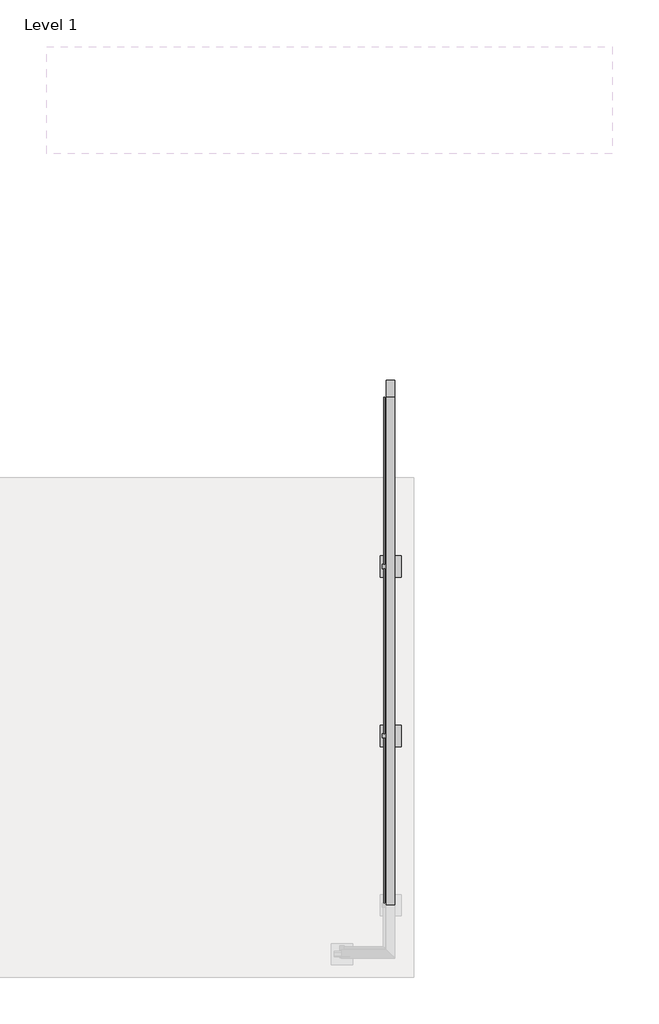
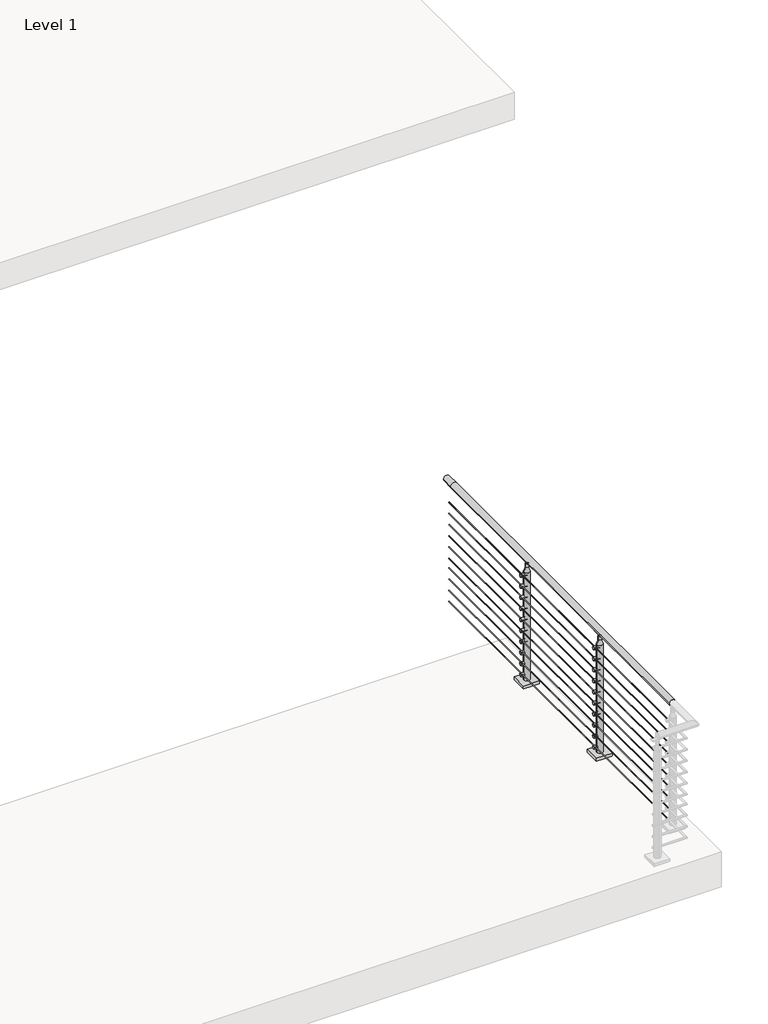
# One storey, part 5 of 21: 1 railing.
"""IFC4 building model written with IfcOpenShell, lengths in millimetres."""

import ifcopenshell
import ifcopenshell.guid

model = None  # the IFC model being written
_history = None  # IfcOwnerHistory: only IFC2X3 demands one
_inside = {}  # id of a spatial element -> (the spatial element, [elements in it])
_under = {}  # id of a project, library or spatial element -> (it, [spatial elements below it])
_declared = {}  # id of a project -> (the project, [libraries it declares])
_typed = {}  # id of a type object -> (the type object, [elements of that type])
_made_of = {}  # id of a material, layer set ... -> (it, [elements and type objects made of it])


def new_model(schema):
    """Start an empty IFC model of exactly this schema.

    Asked for "IFC4X3", IfcOpenShell would pick the latest addendum, in which some entities
    have other attributes; the version numbers below select the first issue.
    IFC2X3 requires an IfcOwnerHistory on every rooted entity: one is made here for all.
    """
    global model, _history
    if schema == "IFC4X3":
        model = ifcopenshell.file(schema_version=(4, 3, 0, 0))
    else:
        model = ifcopenshell.file(schema=schema)
    _inside.clear()
    _under.clear()
    _declared.clear()
    _typed.clear()
    _made_of.clear()
    _history = None
    if model.schema == "IFC2X3":
        org = make("IfcOrganization", Name="unknown")
        user = make(
            "IfcPersonAndOrganization",
            ThePerson=make("IfcPerson", FamilyName="unknown"),
            TheOrganization=org,
        )
        app = make(
            "IfcApplication",
            ApplicationDeveloper=org,
            Version="unknown",
            ApplicationFullName="unknown",
            ApplicationIdentifier="unknown",
        )
        _history = make(
            "IfcOwnerHistory",
            OwningUser=user,
            OwningApplication=app,
            ChangeAction="ADDED",
            CreationDate=0,
        )
    return model


def make(cls, **values):
    """One entity of the class cls with the attributes given. An attribute that is None is left unset."""
    return model.create_entity(
        cls, **{name: value for name, value in values.items() if value is not None}
    )


def rooted(cls, **values):
    """An entity with a GlobalId (a new one), such as an element, a storey or a relation."""
    return make(cls, GlobalId=ifcopenshell.guid.new(), OwnerHistory=_history, **values)


def si_unit(unit_type, name, prefix=None):
    """IfcSIUnit, for example si_unit("LENGTHUNIT", "METRE", prefix="MILLI")."""
    return make("IfcSIUnit", UnitType=unit_type, Prefix=prefix, Name=name)


def assignment(units):
    """IfcUnitAssignment: the units of a project."""
    return None if units is None else make("IfcUnitAssignment", Units=units)


def point(xyz):
    """IfcCartesianPoint."""
    return None if xyz is None else make("IfcCartesianPoint", Coordinates=xyz)


def direction(xyz):
    """IfcDirection."""
    return None if xyz is None else make("IfcDirection", DirectionRatios=xyz)


def frame(location, z_axis=None, x_axis=None):
    """IfcAxis2Placement3D, a coordinate frame: its origin and axes. An axis left out is left unset."""
    return make(
        "IfcAxis2Placement3D",
        Location=point(location),
        Axis=direction(z_axis),
        RefDirection=direction(x_axis),
    )


def frame_2d(location, x_axis=None):
    """IfcAxis2Placement2D, a coordinate frame in the plane: its origin and x axis."""
    return make(
        "IfcAxis2Placement2D", Location=point(location), RefDirection=direction(x_axis)
    )


def origin():
    """The frame at (0, 0, 0) with its axes left unset."""
    return frame((0.0, 0.0, 0.0))


def origin_with_axes():
    """The frame at (0, 0, 0) with the z axis (0, 0, 1) and the x axis (1, 0, 0) written out."""
    return frame((0.0, 0.0, 0.0), z_axis=(0.0, 0.0, 1.0), x_axis=(1.0, 0.0, 0.0))


def place(relative_to, where):
    """IfcLocalPlacement: puts the frame where relative to a parent placement (None: the world)."""
    return make(
        "IfcLocalPlacement", PlacementRelTo=relative_to, RelativePlacement=where
    )


def context(
    kind, dimensions, precision=None, world=None, true_north=None, identifier=None
):
    """IfcGeometricRepresentationContext, for example the 3D "Model" context."""
    return make(
        "IfcGeometricRepresentationContext",
        ContextIdentifier=identifier,
        ContextType=kind,
        CoordinateSpaceDimension=dimensions,
        Precision=precision,
        WorldCoordinateSystem=world,
        TrueNorth=true_north,
    )


def project(units=None, contexts=None):
    """IfcProject with its units and contexts."""
    return rooted(
        "IfcProject",
        Name="project",
        RepresentationContexts=contexts,
        UnitsInContext=assignment(units),
    )


def spatial(cls, under=None, at=None, **own):
    """A site, building, storey or space (cls), placed at a placement, below another one or the project."""
    s = rooted(cls, ObjectPlacement=at, **own)
    if under is not None:
        _under.setdefault(under.id(), (under, []))[1].append(s)
    return s


def polyline(points):
    """IfcPolyline through the points."""
    return make("IfcPolyline", Points=[point(p) for p in points])


def circle_curve(where, radius):
    """IfcCircle in the frame where."""
    return make("IfcCircle", Position=where, Radius=radius)


def ellipse_curve(where, semi_axis1, semi_axis2):
    """IfcEllipse in the frame where."""
    return make(
        "IfcEllipse", Position=where, SemiAxis1=semi_axis1, SemiAxis2=semi_axis2
    )


def trimmed(basis, trim1, trim2, sense, master):
    """IfcTrimmedCurve: the piece of a basis curve between two trims."""
    return make(
        "IfcTrimmedCurve",
        BasisCurve=basis,
        Trim1=trim1,
        Trim2=trim2,
        SenseAgreement=sense,
        MasterRepresentation=master,
    )


def segment(curve, same_sense, transition):
    """IfcCompositeCurveSegment."""
    return make(
        "IfcCompositeCurveSegment",
        Transition=transition,
        SameSense=same_sense,
        ParentCurve=curve,
    )


def composite_curve(segments, self_intersect=None):
    """IfcCompositeCurve: segments joined end to end."""
    return make("IfcCompositeCurve", Segments=segments, SelfIntersect=self_intersect)


def outline(outer, holes=None, kind="AREA"):
    """IfcArbitraryClosedProfileDef: a profile drawn as a closed curve; with holes, ...WithVoids."""
    if holes is None:
        return make("IfcArbitraryClosedProfileDef", ProfileType=kind, OuterCurve=outer)
    return make(
        "IfcArbitraryProfileDefWithVoids",
        ProfileType=kind,
        OuterCurve=outer,
        InnerCurves=holes,
    )


def extrude(swept, where, along, depth):
    """IfcExtrudedAreaSolid: the profile swept, set in the frame where, extruded along a direction by depth."""
    return make(
        "IfcExtrudedAreaSolid",
        SweptArea=swept,
        Position=where,
        ExtrudedDirection=direction(along),
        Depth=depth,
    )


def shape(context_of_items, identifier, shape_type, items):
    """IfcShapeRepresentation: the items that make up one representation, for example the "Body"."""
    return make(
        "IfcShapeRepresentation",
        ContextOfItems=context_of_items,
        RepresentationIdentifier=identifier,
        RepresentationType=shape_type,
        Items=items,
    )


def made_of(thing, what):
    """Note that an element or type object is made of a material, layer set ...; save() writes the relation."""
    if what is not None:
        _made_of.setdefault(what.id(), (what, []))[1].append(thing)
    return thing


def element(
    cls,
    number,
    at=None,
    inside=None,
    cuts=None,
    type_object=None,
    material=None,
    context=None,
    identifier="Body",
    shape_type=None,
    held_by="IfcProductDefinitionShape",
    body=None,
    shapes=None,
    **own,
):
    """One element of the class cls, such as IfcWall. Its Tag is "e" and its number.

    at: its placement. inside: the storey or other place that contains it. cuts: it is an
    opening in that element (IfcRelVoidsElement). A single representation is given by context,
    identifier, shape_type and body (its items); several are given by shapes. held_by: the class
    of the entity that holds the representations. save() writes the other relations.
    """
    e = rooted(cls, Tag="e%d" % number, ObjectPlacement=at, **own)
    if body is not None:
        shapes = [shape(context, identifier, shape_type, body)]
    if shapes is not None:
        e.Representation = make(held_by, Representations=shapes)
    if inside is not None:
        _inside.setdefault(inside.id(), (inside, []))[1].append(e)
    if cuts is not None:
        rooted(
            "IfcRelVoidsElement", RelatingBuildingElement=cuts, RelatedOpeningElement=e
        )
    if type_object is not None:
        _typed.setdefault(type_object.id(), (type_object, []))[1].append(e)
    return made_of(e, material)


def aggregate(whole, parts):
    """IfcRelAggregates: a whole, such as a stair, and the parts it consists of."""
    return rooted("IfcRelAggregates", RelatingObject=whole, RelatedObjects=parts)


def save(model, path):
    """Write the relations noted so far, then the file.

    IfcRelAggregates (storeys below a building ...), IfcRelContainedInSpatialStructure (elements
    in a storey), IfcRelDefinesByType, IfcRelAssociatesMaterial and IfcRelDeclares: one each for
    every whole, place, type object, material and project.
    """
    for whole, parts in _under.values():
        aggregate(whole, parts)
    for where, things in _inside.values():
        rooted(
            "IfcRelContainedInSpatialStructure",
            RelatedElements=things,
            RelatingStructure=where,
        )
    for kind, things in _typed.values():
        rooted("IfcRelDefinesByType", RelatedObjects=things, RelatingType=kind)
    for what, things in _made_of.values():
        rooted("IfcRelAssociatesMaterial", RelatedObjects=things, RelatingMaterial=what)
    for by, libraries in _declared.values():
        rooted("IfcRelDeclares", RelatingContext=by, RelatedDefinitions=libraries)
    model.write(path)


def plane_surface(at):
    """IfcPlane: the flat surface through the origin of the frame at, square to its z axis."""
    return make("IfcPlane", Position=at)


def cylinder_surface(at, radius):
    """IfcCylindricalSurface: all points at the distance radius from the z axis of the frame at."""
    return make("IfcCylindricalSurface", Position=at, Radius=radius)


def revolved_surface(curve, axis_point, axis_direction):
    """IfcSurfaceOfRevolution: the curve turned about the line through axis_point along axis_direction."""
    return make(
        "IfcSurfaceOfRevolution",
        SweptCurve=make("IfcArbitraryOpenProfileDef", ProfileType="CURVE", Curve=curve),
        AxisPosition=make("IfcAxis1Placement", Location=point(axis_point), Axis=direction(axis_direction)),
    )


def advanced_brep(points, edges, surfaces, faces):
    """IfcAdvancedBrep: a solid bounded by faces that lie on surfaces and meet in shared edges.

    An edge is (start, end): straight between two places in points (the first is 0);
    or (start, end, curve); or (start, end, curve, False) where it runs against its curve.
    A face is (place in surfaces, loops), or (place, loops, False) where it looks against
    its surface's normal. A loop lists edges by number (the first is 1), with a minus sign
    where the edge is run from its end to its start. The first loop is the outer one.
    """
    corners = [point(p) for p in points]
    vertices = [make("IfcVertexPoint", VertexGeometry=c) for c in corners]
    made = []
    for start, end, *more in edges:
        made.append(
            make(
                "IfcEdgeCurve",
                EdgeStart=vertices[start],
                EdgeEnd=vertices[end],
                EdgeGeometry=more[0] if more else make("IfcPolyline", Points=[corners[start], corners[end]]),
                SameSense=more[1] if len(more) > 1 else True,
            )
        )
    hull = []
    for where, loops, *sense in faces:
        bounds = []
        for j, loop in enumerate(loops):
            ring = [make("IfcOrientedEdge", EdgeElement=made[abs(k) - 1], Orientation=k > 0) for k in loop]
            bounds.append(
                make(
                    "IfcFaceOuterBound" if j == 0 else "IfcFaceBound",
                    Bound=make("IfcEdgeLoop", EdgeList=ring),
                    Orientation=True,
                )
            )
        hull.append(make("IfcAdvancedFace", Bounds=bounds, FaceSurface=surfaces[where], SameSense=sense[0] if sense else True))
    return make("IfcAdvancedBrep", Outer=make("IfcClosedShell", CfsFaces=hull))


model = new_model("IFC4")

# Units and contexts
model_context = context("Model", 3, world=origin())
ifc_project = project(units=[si_unit("LENGTHUNIT", "METRE", prefix="MILLI")], contexts=[model_context])

# Site, building, storey
site = spatial("IfcSite", under=ifc_project)
building = spatial("IfcBuilding", under=site)
storey = spatial("IfcBuildingStorey", under=building, Name="Level 1", Elevation=0.0)

# Railing
placement = place(None, origin())
element("IfcRailing", 1, ObjectType="VIVA-CIRCA-Multiline-Cable-Floor Mount-Straight", at=placement, inside=storey, context=model_context, shape_type="SolidModel", body=[
    advanced_brep(
    [(19629.2855247, -73352.7943064, 1054.1), (19578.4855247, -73352.7943064, 1054.1), (19629.2855247, -70304.7943064, 1054.1), (19578.4855247, -70304.7943064, 1054.1), (19629.2855247, -70203.1943064, 1054.1), (19578.4855247, -70203.1943064, 1054.1)],
    [
        (0, 1, circle_curve(frame((19603.8855247, -73352.7943064, 1054.1), z_axis=(0.0, -1.0, 0.0), x_axis=(-1.0, 0.0, 0.0)), 25.4)),
        (1, 0, circle_curve(frame((19603.8855247, -73352.7943064, 1054.1), z_axis=(0.0, -1.0, 0.0), x_axis=(-1.0, 0.0, 0.0)), 25.4)),
        (0, 2),
        (2, 3, circle_curve(frame((19603.8855247, -70304.7943064, 1054.1), z_axis=(0.0, -1.0, 0.0), x_axis=(-1.0, 0.0, 0.0)), 25.4)),
        (3, 1),
        (3, 2, circle_curve(frame((19603.8855247, -70304.7943064, 1054.1), z_axis=(0.0, -1.0, 0.0), x_axis=(-1.0, 0.0, 0.0)), 25.4)),
        (4, 5, circle_curve(frame((19603.8855247, -70203.1943064, 1054.1), z_axis=(0.0, 1.0, 0.0), x_axis=(-1.0, 0.0, 0.0)), 25.4)),
        (5, 4, circle_curve(frame((19603.8855247, -70203.1943064, 1054.1), z_axis=(0.0, 1.0, 0.0), x_axis=(-1.0, 0.0, 0.0)), 25.4)),
        (2, 4),
        (5, 3),
    ],
    [
        plane_surface(frame((19603.8855247, -73352.7943064, 1079.5), z_axis=(0.0, -1.0, 0.0), x_axis=(0.0, 0.0, 1.0))),
        cylinder_surface(frame((19603.8855247, -73352.7943064, 1054.1), z_axis=(0.0, -1.0, 0.0), x_axis=(-1.0, 0.0, 0.0)), 25.4),
        plane_surface(frame((19603.8855247, -70203.1943064, 1079.5), z_axis=(0.0, 1.0, 0.0), x_axis=(0.0, 0.0, 1.0))),
        cylinder_surface(frame((19603.8855247, -70304.7943064, 1054.1), z_axis=(0.0, -1.0, 0.0), x_axis=(-1.0, 0.0, 0.0)), 25.4),
    ],
    [
        (0, [[1, 2]]),
        (1, [[-1, 3, 4, 5]]),
        (1, [[-2, -5, 6, -3]]),
        (2, [[7, 8]]),
        (3, [[-4, 9, -8, 10]]),
        (3, [[-6, -10, -7, -9]]),
    ],
),
    extrude(outline(composite_curve([segment(trimmed(circle_curve(frame_2d((924.7124, 19565.7855247)), 2.3876), [point((924.7124, 19563.3979247))], [point((924.7124, 19568.1731247))], False, "CARTESIAN"), True, "CONTINUOUS"), segment(trimmed(circle_curve(frame_2d((924.7124, 19565.7855247)), 2.3876), [point((924.7124, 19568.1731247))], [point((924.7124, 19563.3979247))], False, "CARTESIAN"), True, "CONTINUOUS")], self_intersect=False)), frame((0.0, -73352.7943064, 0.0), z_axis=(0.0, 1.0, 0.0), x_axis=(0.0, 0.0, 1.0)), (0.0, 0.0, 1.0), 3048.0),
    extrude(outline(composite_curve([segment(trimmed(circle_curve(frame_2d((829.4624, 19565.7855247)), 2.3876), [point((829.4624, 19563.3979247))], [point((829.4624, 19568.1731247))], False, "CARTESIAN"), True, "CONTINUOUS"), segment(trimmed(circle_curve(frame_2d((829.4624, 19565.7855247)), 2.3876), [point((829.4624, 19568.1731247))], [point((829.4624, 19563.3979247))], False, "CARTESIAN"), True, "CONTINUOUS")], self_intersect=False)), frame((0.0, -73352.7943064, 0.0), z_axis=(0.0, 1.0, 0.0), x_axis=(0.0, 0.0, 1.0)), (0.0, 0.0, 1.0), 3048.0),
    extrude(outline(composite_curve([segment(trimmed(circle_curve(frame_2d((734.2124, 19565.7855247)), 2.3876), [point((734.2124, 19563.3979247))], [point((734.2124, 19568.1731247))], False, "CARTESIAN"), True, "CONTINUOUS"), segment(trimmed(circle_curve(frame_2d((734.2124, 19565.7855247)), 2.3876), [point((734.2124, 19568.1731247))], [point((734.2124, 19563.3979247))], False, "CARTESIAN"), True, "CONTINUOUS")], self_intersect=False)), frame((0.0, -73352.7943064, 0.0), z_axis=(0.0, 1.0, 0.0), x_axis=(0.0, 0.0, 1.0)), (0.0, 0.0, 1.0), 3048.0),
    extrude(outline(composite_curve([segment(trimmed(circle_curve(frame_2d((638.9624, 19565.7855247)), 2.3876), [point((638.9624, 19563.3979247))], [point((638.9624, 19568.1731247))], False, "CARTESIAN"), True, "CONTINUOUS"), segment(trimmed(circle_curve(frame_2d((638.9624, 19565.7855247)), 2.3876), [point((638.9624, 19568.1731247))], [point((638.9624, 19563.3979247))], False, "CARTESIAN"), True, "CONTINUOUS")], self_intersect=False)), frame((0.0, -73352.7943064, 0.0), z_axis=(0.0, 1.0, 0.0), x_axis=(0.0, 0.0, 1.0)), (0.0, 0.0, 1.0), 3048.0),
    extrude(outline(composite_curve([segment(trimmed(circle_curve(frame_2d((543.7124, 19565.7855247)), 2.3876), [point((543.7124, 19563.3979247))], [point((543.7124, 19568.1731247))], False, "CARTESIAN"), True, "CONTINUOUS"), segment(trimmed(circle_curve(frame_2d((543.7124, 19565.7855247)), 2.3876), [point((543.7124, 19568.1731247))], [point((543.7124, 19563.3979247))], False, "CARTESIAN"), True, "CONTINUOUS")], self_intersect=False)), frame((0.0, -73352.7943064, 0.0), z_axis=(0.0, 1.0, 0.0), x_axis=(0.0, 0.0, 1.0)), (0.0, 0.0, 1.0), 3048.0),
    extrude(outline(composite_curve([segment(trimmed(circle_curve(frame_2d((448.4624, 19565.7855247)), 2.3876), [point((448.4624, 19563.3979247))], [point((448.4624, 19568.1731247))], False, "CARTESIAN"), True, "CONTINUOUS"), segment(trimmed(circle_curve(frame_2d((448.4624, 19565.7855247)), 2.3876), [point((448.4624, 19568.1731247))], [point((448.4624, 19563.3979247))], False, "CARTESIAN"), True, "CONTINUOUS")], self_intersect=False)), frame((0.0, -73352.7943064, 0.0), z_axis=(0.0, 1.0, 0.0), x_axis=(0.0, 0.0, 1.0)), (0.0, 0.0, 1.0), 3048.0),
    extrude(outline(composite_curve([segment(trimmed(circle_curve(frame_2d((365.9124, 19565.7855247)), 2.3876), [point((365.9124, 19563.3979247))], [point((365.9124, 19568.1731247))], False, "CARTESIAN"), True, "CONTINUOUS"), segment(trimmed(circle_curve(frame_2d((365.9124, 19565.7855247)), 2.3876), [point((365.9124, 19568.1731247))], [point((365.9124, 19563.3979247))], False, "CARTESIAN"), True, "CONTINUOUS")], self_intersect=False)), frame((0.0, -73352.7943064, 0.0), z_axis=(0.0, 1.0, 0.0), x_axis=(0.0, 0.0, 1.0)), (0.0, 0.0, 1.0), 3048.0),
    extrude(outline(composite_curve([segment(trimmed(circle_curve(frame_2d((270.6624, 19565.7855247)), 2.3876), [point((270.6624, 19563.3979247))], [point((270.6624, 19568.1731247))], False, "CARTESIAN"), True, "CONTINUOUS"), segment(trimmed(circle_curve(frame_2d((270.6624, 19565.7855247)), 2.3876), [point((270.6624, 19568.1731247))], [point((270.6624, 19563.3979247))], False, "CARTESIAN"), True, "CONTINUOUS")], self_intersect=False)), frame((0.0, -73352.7943064, 0.0), z_axis=(0.0, 1.0, 0.0), x_axis=(0.0, 0.0, 1.0)), (0.0, 0.0, 1.0), 3048.0),
    extrude(outline(composite_curve([segment(trimmed(circle_curve(frame_2d((175.4124, 19565.7855247)), 2.3876), [point((175.4124, 19563.3979247))], [point((175.4124, 19568.1731247))], False, "CARTESIAN"), True, "CONTINUOUS"), segment(trimmed(circle_curve(frame_2d((175.4124, 19565.7855247)), 2.3876), [point((175.4124, 19568.1731247))], [point((175.4124, 19563.3979247))], False, "CARTESIAN"), True, "CONTINUOUS")], self_intersect=False)), frame((0.0, -73352.7943064, 0.0), z_axis=(0.0, 1.0, 0.0), x_axis=(0.0, 0.0, 1.0)), (0.0, 0.0, 1.0), 3048.0),
    extrude(outline(composite_curve([segment(trimmed(circle_curve(frame_2d((80.1624, 19565.7855247)), 2.3876), [point((80.1624, 19563.3979247))], [point((80.1624, 19568.1731247))], False, "CARTESIAN"), True, "CONTINUOUS"), segment(trimmed(circle_curve(frame_2d((80.1624, 19565.7855247)), 2.3876), [point((80.1624, 19568.1731247))], [point((80.1624, 19563.3979247))], False, "CARTESIAN"), True, "CONTINUOUS")], self_intersect=False)), frame((0.0, -73352.7943064, 0.0), z_axis=(0.0, 1.0, 0.0), x_axis=(0.0, 0.0, 1.0)), (0.0, 0.0, 1.0), 3048.0),
    extrude(outline(composite_curve([segment(trimmed(circle_curve(frame_2d((-71320.0005564, 76.2)), 12.666458), [point((-71307.3340985, 76.2))], [point((-71332.6670144, 76.2))], False, "CARTESIAN"), True, "CONTINUOUS"), segment(trimmed(circle_curve(frame_2d((-71320.0005564, 76.2)), 12.666458), [point((-71332.6670144, 76.2))], [point((-71307.3340985, 76.2))], False, "CARTESIAN"), True, "CONTINUOUS")], self_intersect=False)), frame((19553.0855247, 0.0, 0.0), z_axis=(1.0, 0.0, 0.0), x_axis=(0.0, 1.0, 0.0)), (0.0, 0.0, 1.0), 50.8),
    extrude(outline(composite_curve([segment(trimmed(circle_curve(frame_2d((-71320.0005564, 170.0388889)), 12.666458), [point((-71307.3340985, 170.0388889))], [point((-71332.6670144, 170.0388889))], False, "CARTESIAN"), True, "CONTINUOUS"), segment(trimmed(circle_curve(frame_2d((-71320.0005564, 170.0388889)), 12.666458), [point((-71332.6670144, 170.0388889))], [point((-71307.3340985, 170.0388889))], False, "CARTESIAN"), True, "CONTINUOUS")], self_intersect=False)), frame((19553.0855247, 0.0, 0.0), z_axis=(1.0, 0.0, 0.0), x_axis=(0.0, 1.0, 0.0)), (0.0, 0.0, 1.0), 50.8),
    extrude(outline(composite_curve([segment(trimmed(circle_curve(frame_2d((-71320.0005564, 263.8777778)), 12.666458), [point((-71307.3340985, 263.8777778))], [point((-71332.6670144, 263.8777778))], False, "CARTESIAN"), True, "CONTINUOUS"), segment(trimmed(circle_curve(frame_2d((-71320.0005564, 263.8777778)), 12.666458), [point((-71332.6670144, 263.8777778))], [point((-71307.3340985, 263.8777778))], False, "CARTESIAN"), True, "CONTINUOUS")], self_intersect=False)), frame((19553.0855247, 0.0, 0.0), z_axis=(1.0, 0.0, 0.0), x_axis=(0.0, 1.0, 0.0)), (0.0, 0.0, 1.0), 50.8),
    extrude(outline(composite_curve([segment(trimmed(circle_curve(frame_2d((-71320.0005564, 357.7166667)), 12.666458), [point((-71307.3340985, 357.7166667))], [point((-71332.6670144, 357.7166667))], False, "CARTESIAN"), True, "CONTINUOUS"), segment(trimmed(circle_curve(frame_2d((-71320.0005564, 357.7166667)), 12.666458), [point((-71332.6670144, 357.7166667))], [point((-71307.3340985, 357.7166667))], False, "CARTESIAN"), True, "CONTINUOUS")], self_intersect=False)), frame((19553.0855247, 0.0, 0.0), z_axis=(1.0, 0.0, 0.0), x_axis=(0.0, 1.0, 0.0)), (0.0, 0.0, 1.0), 50.8),
    extrude(outline(composite_curve([segment(trimmed(circle_curve(frame_2d((-71320.0005564, 451.5555556)), 12.666458), [point((-71307.3340985, 451.5555556))], [point((-71332.6670144, 451.5555556))], False, "CARTESIAN"), True, "CONTINUOUS"), segment(trimmed(circle_curve(frame_2d((-71320.0005564, 451.5555556)), 12.666458), [point((-71332.6670144, 451.5555556))], [point((-71307.3340985, 451.5555556))], False, "CARTESIAN"), True, "CONTINUOUS")], self_intersect=False)), frame((19553.0855247, 0.0, 0.0), z_axis=(1.0, 0.0, 0.0), x_axis=(0.0, 1.0, 0.0)), (0.0, 0.0, 1.0), 50.8),
    extrude(outline(composite_curve([segment(trimmed(circle_curve(frame_2d((-71320.0005564, 545.3944444)), 12.666458), [point((-71307.3340985, 545.3944444))], [point((-71332.6670144, 545.3944444))], False, "CARTESIAN"), True, "CONTINUOUS"), segment(trimmed(circle_curve(frame_2d((-71320.0005564, 545.3944444)), 12.666458), [point((-71332.6670144, 545.3944444))], [point((-71307.3340985, 545.3944444))], False, "CARTESIAN"), True, "CONTINUOUS")], self_intersect=False)), frame((19553.0855247, 0.0, 0.0), z_axis=(1.0, 0.0, 0.0), x_axis=(0.0, 1.0, 0.0)), (0.0, 0.0, 1.0), 50.8),
    extrude(outline(composite_curve([segment(trimmed(circle_curve(frame_2d((-71320.0005564, 639.2333333)), 12.666458), [point((-71307.3340985, 639.2333333))], [point((-71332.6670144, 639.2333333))], False, "CARTESIAN"), True, "CONTINUOUS"), segment(trimmed(circle_curve(frame_2d((-71320.0005564, 639.2333333)), 12.666458), [point((-71332.6670144, 639.2333333))], [point((-71307.3340985, 639.2333333))], False, "CARTESIAN"), True, "CONTINUOUS")], self_intersect=False)), frame((19553.0855247, 0.0, 0.0), z_axis=(1.0, 0.0, 0.0), x_axis=(0.0, 1.0, 0.0)), (0.0, 0.0, 1.0), 50.8),
    extrude(outline(composite_curve([segment(trimmed(circle_curve(frame_2d((-71320.0005564, 733.0722222)), 12.666458), [point((-71307.3340985, 733.0722222))], [point((-71332.6670144, 733.0722222))], False, "CARTESIAN"), True, "CONTINUOUS"), segment(trimmed(circle_curve(frame_2d((-71320.0005564, 733.0722222)), 12.666458), [point((-71332.6670144, 733.0722222))], [point((-71307.3340985, 733.0722222))], False, "CARTESIAN"), True, "CONTINUOUS")], self_intersect=False)), frame((19553.0855247, 0.0, 0.0), z_axis=(1.0, 0.0, 0.0), x_axis=(0.0, 1.0, 0.0)), (0.0, 0.0, 1.0), 50.8),
    extrude(outline(composite_curve([segment(trimmed(circle_curve(frame_2d((-71320.0005564, 920.75)), 12.666458), [point((-71307.3340985, 920.75))], [point((-71332.6670144, 920.75))], False, "CARTESIAN"), True, "CONTINUOUS"), segment(trimmed(circle_curve(frame_2d((-71320.0005564, 920.75)), 12.666458), [point((-71332.6670144, 920.75))], [point((-71307.3340985, 920.75))], False, "CARTESIAN"), True, "CONTINUOUS")], self_intersect=False)), frame((19553.0855247, 0.0, 0.0), z_axis=(1.0, 0.0, 0.0), x_axis=(0.0, 1.0, 0.0)), (0.0, 0.0, 1.0), 50.8),
    extrude(outline(composite_curve([segment(trimmed(circle_curve(frame_2d((-71320.0005564, 826.9111111)), 12.666458), [point((-71307.3340985, 826.9111111))], [point((-71332.6670144, 826.9111111))], False, "CARTESIAN"), True, "CONTINUOUS"), segment(trimmed(circle_curve(frame_2d((-71320.0005564, 826.9111111)), 12.666458), [point((-71332.6670144, 826.9111111))], [point((-71307.3340985, 826.9111111))], False, "CARTESIAN"), True, "CONTINUOUS")], self_intersect=False)), frame((19553.0855247, 0.0, 0.0), z_axis=(1.0, 0.0, 0.0), x_axis=(0.0, 1.0, 0.0)), (0.0, 0.0, 1.0), 50.8),
    extrude(outline(composite_curve([segment(trimmed(circle_curve(frame_2d((1055.4254922, 19603.7887963)), 25.4345159), [point((1033.3106679, 19616.3525992))], [point((1033.2157471, 19591.3935626))], True, "CARTESIAN"), True, "CONTINUOUS"), segment(trimmed(circle_curve(frame_2d((1030.7132623, 19590.1489094)), 2.7949225), [point((1033.2157471, 19591.3935626))], [point((1028.3406769, 19588.6716044))], False, "CARTESIAN"), True, "CONTINUOUS"), segment(trimmed(circle_curve(frame_2d((1056.1881188, 19603.9222594)), 31.75), [point((1028.3406769, 19588.6716044))], [point((1028.9214354, 19620.1884966))], False, "CARTESIAN"), True, "CONTINUOUS"), segment(trimmed(circle_curve(frame_2d((1030.7923545, 19617.9001569)), 2.9558141), [point((1028.9214354, 19620.1884966))], [point((1033.3106679, 19616.3525992))], False, "CARTESIAN"), True, "CONTINUOUS")], self_intersect=False)), frame((0.0, -71365.6348314, 0.0), z_axis=(0.0, 1.0, 0.0), x_axis=(0.0, 0.0, 1.0)), (0.0, 0.0, 1.0), 90.4748),
    extrude(outline(composite_curve([segment(trimmed(circle_curve(frame_2d((-71293.3295165, 1010.282776)), 14.3679149), [point((-71293.3295165, 1024.6506908))], [point((-71307.6974314, 1010.282776))], True, "CARTESIAN"), True, "CONTINUOUS"), segment(trimmed(circle_curve(frame_2d((-71320.3974314, 1010.282776)), 12.7), [point((-71307.6974314, 1010.282776))], [point((-71333.0974314, 1010.282776))], False, "CARTESIAN"), True, "CONTINUOUS"), segment(trimmed(circle_curve(frame_2d((-71347.4653463, 1010.282776)), 14.3679149), [point((-71333.0974314, 1010.282776))], [point((-71347.4653463, 1024.6506908))], True, "CARTESIAN"), True, "CONTINUOUS"), segment(polyline([(-71347.4653463, 1024.6506908), (-71293.3295165, 1024.6506908)]), True, "CONTINUOUS")], self_intersect=False)), frame((19601.3455247, 0.0, 0.0), z_axis=(1.0, 0.0, 0.0), x_axis=(0.0, 1.0, 0.0)), (0.0, 0.0, 1.0), 5.08),
    extrude(outline(polyline([(19667.3855247, -71383.8974314), (19540.3855247, -71383.8974314), (19540.3855247, -71256.8974314), (19667.3855247, -71256.8974314), (19667.3855247, -71383.8974314)])), origin_with_axes(), (0.0, 0.0, 1.0), 25.4),
    advanced_brep(
    [(19629.2849225, -71320.3974314, 941.1347854), (19578.4861269, -71320.3974314, 941.1347854), (19578.4861269, -71320.3974314, 25.4), (19629.2849225, -71320.3974314, 25.4), (19616.6234932, -71320.3974314, 979.3486202), (19591.1475562, -71320.3974314, 979.3486202), (19616.6234932, -71320.3974314, 1008.5779599), (19591.1475562, -71320.3974314, 1008.5779599), (19603.8855247, -71320.3974314, 1015.238668), (19603.8855247, -71320.3974314, 25.4)],
    [
        (0, 1, circle_curve(frame((19603.8855247, -71320.3974314, 941.1347854), z_axis=(0.0, 0.0, -1.0), x_axis=(-1.0, 0.0, 0.0)), 25.3993978)),
        (1, 2),
        (2, 3, circle_curve(frame((19603.8855247, -71320.3974314, 25.4), z_axis=(0.0, 0.0, 1.0), x_axis=(-1.0, 0.0, 0.0)), 25.3993978)),
        (3, 0),
        (1, 0, circle_curve(frame((19603.8855247, -71320.3974314, 941.1347854), z_axis=(0.0, 0.0, -1.0), x_axis=(-1.0, 0.0, 0.0)), 25.3993978)),
        (3, 2, circle_curve(frame((19603.8855247, -71320.3974314, 25.4), z_axis=(0.0, 0.0, 1.0), x_axis=(-1.0, 0.0, 0.0)), 25.3993978)),
        (4, 5, circle_curve(frame((19603.8855247, -71320.3974314, 979.3486202), z_axis=(0.0, 0.0, -1.0), x_axis=(-1.0, 0.0, 0.0)), 12.7379685)),
        (5, 1, circle_curve(frame((19527.1496879, -71320.3974314, 979.3486202), z_axis=(0.0, 1.0, 0.0), x_axis=(-1.0, 0.0, 0.0)), 63.9978683)),
        (0, 4, circle_curve(frame((19680.6213615, -71320.3974314, 979.3486202), z_axis=(0.0, 1.0, 0.0), x_axis=(1.0, 0.0, 0.0)), 63.9978683)),
        (5, 4, circle_curve(frame((19603.8855247, -71320.3974314, 979.3486202), z_axis=(0.0, 0.0, -1.0), x_axis=(-1.0, 0.0, 0.0)), 12.7379685)),
        (6, 7, circle_curve(frame((19603.8855247, -71320.3974314, 1008.5779599), z_axis=(0.0, 0.0, -1.0), x_axis=(-1.0, 0.0, 0.0)), 12.7379685)),
        (7, 5),
        (4, 6),
        (7, 6, circle_curve(frame((19603.8855247, -71320.3974314, 1008.5779599), z_axis=(0.0, 0.0, -1.0), x_axis=(-1.0, 0.0, 0.0)), 12.7379685)),
        (8, 7, circle_curve(frame((19603.8855247, -71320.3974314, 999.7282394), z_axis=(0.0, -1.0, 0.0), x_axis=(-1.0, 0.0, 0.0)), 15.5104286)),
        (6, 8, circle_curve(frame((19603.8855247, -71320.3974314, 999.7282394), z_axis=(0.0, -1.0, 0.0), x_axis=(1.0, 0.0, 0.0)), 15.5104286)),
        (2, 9),
        (9, 3),
    ],
    [
        cylinder_surface(frame((19603.8855247, -71320.3974314, 1104.9), z_axis=(0.0, 0.0, 1.0), x_axis=(-1.0, 0.0, 0.0)), 25.3993978),
        revolved_surface(trimmed(ellipse_curve(frame((19527.1496879, -71320.3974314, 979.3486202), z_axis=(0.0, -1.0, 0.0), x_axis=(-1.0, 0.0, 0.0)), 63.9978683, 63.9978683), [point((19578.4861269, -71320.3974314, 941.1347854))], [point((19591.1475562, -71320.3974314, 979.3486202))], True, "CARTESIAN"), (19603.8855247, -71320.3974314, 1104.9), (0.0, 0.0, 1.0)),
        cylinder_surface(frame((19603.8855247, -71320.3974314, 1104.9), z_axis=(0.0, 0.0, 1.0), x_axis=(-1.0, 0.0, 0.0)), 12.7379685),
        revolved_surface(trimmed(ellipse_curve(frame((19603.8855247, -71320.3974314, 999.7282394), z_axis=(0.0, 1.0, 0.0), x_axis=(-1.0, 0.0, 0.0)), 15.5104286, 15.5104286), [point((19591.1475562, -71320.3974314, 1008.5779599))], [point((19603.8855247, -71320.3974314, 1015.238668))], True, "CARTESIAN"), (19603.8855247, -71320.3974314, 1104.9), (0.0, 0.0, 1.0)),
        plane_surface(frame((19603.8855247, -71320.3974314, 25.4), z_axis=(0.0, 0.0, -1.0), x_axis=(-1.0, 0.0, 0.0))),
    ],
    [
        (0, [[1, 2, 3, 4]]),
        (0, [[5, -4, 6, -2]]),
        (1, [[7, 8, -1, 9]]),
        (1, [[10, -9, -5, -8]]),
        (2, [[11, 12, -7, 13]]),
        (2, [[14, -13, -10, -12]]),
        (3, [[15, -11, 16]]),
        (3, [[-16, -14, -15]]),
        (4, [[-3, 17, 18]]),
        (4, [[-6, -18, -17]]),
    ],
),
    extrude(outline(composite_curve([segment(trimmed(circle_curve(frame_2d((-72336.0005564, 76.2)), 12.666458), [point((-72323.3340985, 76.2))], [point((-72348.6670144, 76.2))], False, "CARTESIAN"), True, "CONTINUOUS"), segment(trimmed(circle_curve(frame_2d((-72336.0005564, 76.2)), 12.666458), [point((-72348.6670144, 76.2))], [point((-72323.3340985, 76.2))], False, "CARTESIAN"), True, "CONTINUOUS")], self_intersect=False)), frame((19553.0855247, 0.0, 0.0), z_axis=(1.0, 0.0, 0.0), x_axis=(0.0, 1.0, 0.0)), (0.0, 0.0, 1.0), 50.8),
    extrude(outline(composite_curve([segment(trimmed(circle_curve(frame_2d((-72336.0005564, 170.0388889)), 12.666458), [point((-72323.3340985, 170.0388889))], [point((-72348.6670144, 170.0388889))], False, "CARTESIAN"), True, "CONTINUOUS"), segment(trimmed(circle_curve(frame_2d((-72336.0005564, 170.0388889)), 12.666458), [point((-72348.6670144, 170.0388889))], [point((-72323.3340985, 170.0388889))], False, "CARTESIAN"), True, "CONTINUOUS")], self_intersect=False)), frame((19553.0855247, 0.0, 0.0), z_axis=(1.0, 0.0, 0.0), x_axis=(0.0, 1.0, 0.0)), (0.0, 0.0, 1.0), 50.8),
    extrude(outline(composite_curve([segment(trimmed(circle_curve(frame_2d((-72336.0005564, 263.8777778)), 12.666458), [point((-72323.3340985, 263.8777778))], [point((-72348.6670144, 263.8777778))], False, "CARTESIAN"), True, "CONTINUOUS"), segment(trimmed(circle_curve(frame_2d((-72336.0005564, 263.8777778)), 12.666458), [point((-72348.6670144, 263.8777778))], [point((-72323.3340985, 263.8777778))], False, "CARTESIAN"), True, "CONTINUOUS")], self_intersect=False)), frame((19553.0855247, 0.0, 0.0), z_axis=(1.0, 0.0, 0.0), x_axis=(0.0, 1.0, 0.0)), (0.0, 0.0, 1.0), 50.8),
    extrude(outline(composite_curve([segment(trimmed(circle_curve(frame_2d((-72336.0005564, 357.7166667)), 12.666458), [point((-72323.3340985, 357.7166667))], [point((-72348.6670144, 357.7166667))], False, "CARTESIAN"), True, "CONTINUOUS"), segment(trimmed(circle_curve(frame_2d((-72336.0005564, 357.7166667)), 12.666458), [point((-72348.6670144, 357.7166667))], [point((-72323.3340985, 357.7166667))], False, "CARTESIAN"), True, "CONTINUOUS")], self_intersect=False)), frame((19553.0855247, 0.0, 0.0), z_axis=(1.0, 0.0, 0.0), x_axis=(0.0, 1.0, 0.0)), (0.0, 0.0, 1.0), 50.8),
    extrude(outline(composite_curve([segment(trimmed(circle_curve(frame_2d((-72336.0005564, 451.5555556)), 12.666458), [point((-72323.3340985, 451.5555556))], [point((-72348.6670144, 451.5555556))], False, "CARTESIAN"), True, "CONTINUOUS"), segment(trimmed(circle_curve(frame_2d((-72336.0005564, 451.5555556)), 12.666458), [point((-72348.6670144, 451.5555556))], [point((-72323.3340985, 451.5555556))], False, "CARTESIAN"), True, "CONTINUOUS")], self_intersect=False)), frame((19553.0855247, 0.0, 0.0), z_axis=(1.0, 0.0, 0.0), x_axis=(0.0, 1.0, 0.0)), (0.0, 0.0, 1.0), 50.8),
    extrude(outline(composite_curve([segment(trimmed(circle_curve(frame_2d((-72336.0005564, 545.3944444)), 12.666458), [point((-72323.3340985, 545.3944444))], [point((-72348.6670144, 545.3944444))], False, "CARTESIAN"), True, "CONTINUOUS"), segment(trimmed(circle_curve(frame_2d((-72336.0005564, 545.3944444)), 12.666458), [point((-72348.6670144, 545.3944444))], [point((-72323.3340985, 545.3944444))], False, "CARTESIAN"), True, "CONTINUOUS")], self_intersect=False)), frame((19553.0855247, 0.0, 0.0), z_axis=(1.0, 0.0, 0.0), x_axis=(0.0, 1.0, 0.0)), (0.0, 0.0, 1.0), 50.8),
    extrude(outline(composite_curve([segment(trimmed(circle_curve(frame_2d((-72336.0005564, 639.2333333)), 12.666458), [point((-72323.3340985, 639.2333333))], [point((-72348.6670144, 639.2333333))], False, "CARTESIAN"), True, "CONTINUOUS"), segment(trimmed(circle_curve(frame_2d((-72336.0005564, 639.2333333)), 12.666458), [point((-72348.6670144, 639.2333333))], [point((-72323.3340985, 639.2333333))], False, "CARTESIAN"), True, "CONTINUOUS")], self_intersect=False)), frame((19553.0855247, 0.0, 0.0), z_axis=(1.0, 0.0, 0.0), x_axis=(0.0, 1.0, 0.0)), (0.0, 0.0, 1.0), 50.8),
    extrude(outline(composite_curve([segment(trimmed(circle_curve(frame_2d((-72336.0005564, 733.0722222)), 12.666458), [point((-72323.3340985, 733.0722222))], [point((-72348.6670144, 733.0722222))], False, "CARTESIAN"), True, "CONTINUOUS"), segment(trimmed(circle_curve(frame_2d((-72336.0005564, 733.0722222)), 12.666458), [point((-72348.6670144, 733.0722222))], [point((-72323.3340985, 733.0722222))], False, "CARTESIAN"), True, "CONTINUOUS")], self_intersect=False)), frame((19553.0855247, 0.0, 0.0), z_axis=(1.0, 0.0, 0.0), x_axis=(0.0, 1.0, 0.0)), (0.0, 0.0, 1.0), 50.8),
    extrude(outline(composite_curve([segment(trimmed(circle_curve(frame_2d((-72336.0005564, 920.75)), 12.666458), [point((-72323.3340985, 920.75))], [point((-72348.6670144, 920.75))], False, "CARTESIAN"), True, "CONTINUOUS"), segment(trimmed(circle_curve(frame_2d((-72336.0005564, 920.75)), 12.666458), [point((-72348.6670144, 920.75))], [point((-72323.3340985, 920.75))], False, "CARTESIAN"), True, "CONTINUOUS")], self_intersect=False)), frame((19553.0855247, 0.0, 0.0), z_axis=(1.0, 0.0, 0.0), x_axis=(0.0, 1.0, 0.0)), (0.0, 0.0, 1.0), 50.8),
    extrude(outline(composite_curve([segment(trimmed(circle_curve(frame_2d((-72336.0005564, 826.9111111)), 12.666458), [point((-72323.3340985, 826.9111111))], [point((-72348.6670144, 826.9111111))], False, "CARTESIAN"), True, "CONTINUOUS"), segment(trimmed(circle_curve(frame_2d((-72336.0005564, 826.9111111)), 12.666458), [point((-72348.6670144, 826.9111111))], [point((-72323.3340985, 826.9111111))], False, "CARTESIAN"), True, "CONTINUOUS")], self_intersect=False)), frame((19553.0855247, 0.0, 0.0), z_axis=(1.0, 0.0, 0.0), x_axis=(0.0, 1.0, 0.0)), (0.0, 0.0, 1.0), 50.8),
    extrude(outline(composite_curve([segment(trimmed(circle_curve(frame_2d((1055.4254922, 19603.7887963)), 25.4345159), [point((1033.3106679, 19616.3525992))], [point((1033.2157471, 19591.3935626))], True, "CARTESIAN"), True, "CONTINUOUS"), segment(trimmed(circle_curve(frame_2d((1030.7132623, 19590.1489094)), 2.7949225), [point((1033.2157471, 19591.3935626))], [point((1028.3406769, 19588.6716044))], False, "CARTESIAN"), True, "CONTINUOUS"), segment(trimmed(circle_curve(frame_2d((1056.1881188, 19603.9222594)), 31.75), [point((1028.3406769, 19588.6716044))], [point((1028.9214354, 19620.1884966))], False, "CARTESIAN"), True, "CONTINUOUS"), segment(trimmed(circle_curve(frame_2d((1030.7923545, 19617.9001569)), 2.9558141), [point((1028.9214354, 19620.1884966))], [point((1033.3106679, 19616.3525992))], False, "CARTESIAN"), True, "CONTINUOUS")], self_intersect=False)), frame((0.0, -72381.6348314, 0.0), z_axis=(0.0, 1.0, 0.0), x_axis=(0.0, 0.0, 1.0)), (0.0, 0.0, 1.0), 90.4748),
    extrude(outline(composite_curve([segment(trimmed(circle_curve(frame_2d((-72309.3295165, 1010.282776)), 14.3679149), [point((-72309.3295165, 1024.6506908))], [point((-72323.6974314, 1010.282776))], True, "CARTESIAN"), True, "CONTINUOUS"), segment(trimmed(circle_curve(frame_2d((-72336.3974314, 1010.282776)), 12.7), [point((-72323.6974314, 1010.282776))], [point((-72349.0974314, 1010.282776))], False, "CARTESIAN"), True, "CONTINUOUS"), segment(trimmed(circle_curve(frame_2d((-72363.4653463, 1010.282776)), 14.3679149), [point((-72349.0974314, 1010.282776))], [point((-72363.4653463, 1024.6506908))], True, "CARTESIAN"), True, "CONTINUOUS"), segment(polyline([(-72363.4653463, 1024.6506908), (-72309.3295165, 1024.6506908)]), True, "CONTINUOUS")], self_intersect=False)), frame((19601.3455247, 0.0, 0.0), z_axis=(1.0, 0.0, 0.0), x_axis=(0.0, 1.0, 0.0)), (0.0, 0.0, 1.0), 5.08),
    extrude(outline(polyline([(19667.3855247, -72399.8974314), (19540.3855247, -72399.8974314), (19540.3855247, -72272.8974314), (19667.3855247, -72272.8974314), (19667.3855247, -72399.8974314)])), origin_with_axes(), (0.0, 0.0, 1.0), 25.4),
    advanced_brep(
    [(19629.2849225, -72336.3974314, 941.1347854), (19578.4861269, -72336.3974314, 941.1347854), (19578.4861269, -72336.3974314, 25.4), (19629.2849225, -72336.3974314, 25.4), (19616.6234932, -72336.3974314, 979.3486202), (19591.1475562, -72336.3974314, 979.3486202), (19616.6234932, -72336.3974314, 1008.5779599), (19591.1475562, -72336.3974314, 1008.5779599), (19603.8855247, -72336.3974314, 1015.238668), (19603.8855247, -72336.3974314, 25.4)],
    [
        (0, 1, circle_curve(frame((19603.8855247, -72336.3974314, 941.1347854), z_axis=(0.0, 0.0, -1.0), x_axis=(-1.0, 0.0, 0.0)), 25.3993978)),
        (1, 2),
        (2, 3, circle_curve(frame((19603.8855247, -72336.3974314, 25.4), z_axis=(0.0, 0.0, 1.0), x_axis=(-1.0, 0.0, 0.0)), 25.3993978)),
        (3, 0),
        (1, 0, circle_curve(frame((19603.8855247, -72336.3974314, 941.1347854), z_axis=(0.0, 0.0, -1.0), x_axis=(-1.0, 0.0, 0.0)), 25.3993978)),
        (3, 2, circle_curve(frame((19603.8855247, -72336.3974314, 25.4), z_axis=(0.0, 0.0, 1.0), x_axis=(-1.0, 0.0, 0.0)), 25.3993978)),
        (4, 5, circle_curve(frame((19603.8855247, -72336.3974314, 979.3486202), z_axis=(0.0, 0.0, -1.0), x_axis=(-1.0, 0.0, 0.0)), 12.7379685)),
        (5, 1, circle_curve(frame((19527.1496879, -72336.3974314, 979.3486202), z_axis=(0.0, 1.0, 0.0), x_axis=(-1.0, 0.0, 0.0)), 63.9978683)),
        (0, 4, circle_curve(frame((19680.6213615, -72336.3974314, 979.3486202), z_axis=(0.0, 1.0, 0.0), x_axis=(1.0, 0.0, 0.0)), 63.9978683)),
        (5, 4, circle_curve(frame((19603.8855247, -72336.3974314, 979.3486202), z_axis=(0.0, 0.0, -1.0), x_axis=(-1.0, 0.0, 0.0)), 12.7379685)),
        (6, 7, circle_curve(frame((19603.8855247, -72336.3974314, 1008.5779599), z_axis=(0.0, 0.0, -1.0), x_axis=(-1.0, 0.0, 0.0)), 12.7379685)),
        (7, 5),
        (4, 6),
        (7, 6, circle_curve(frame((19603.8855247, -72336.3974314, 1008.5779599), z_axis=(0.0, 0.0, -1.0), x_axis=(-1.0, 0.0, 0.0)), 12.7379685)),
        (8, 7, circle_curve(frame((19603.8855247, -72336.3974314, 999.7282394), z_axis=(0.0, -1.0, 0.0), x_axis=(-1.0, 0.0, 0.0)), 15.5104286)),
        (6, 8, circle_curve(frame((19603.8855247, -72336.3974314, 999.7282394), z_axis=(0.0, -1.0, 0.0), x_axis=(1.0, 0.0, 0.0)), 15.5104286)),
        (2, 9),
        (9, 3),
    ],
    [
        cylinder_surface(frame((19603.8855247, -72336.3974314, 1104.9), z_axis=(0.0, 0.0, 1.0), x_axis=(-1.0, 0.0, 0.0)), 25.3993978),
        revolved_surface(trimmed(ellipse_curve(frame((19527.1496879, -72336.3974314, 979.3486202), z_axis=(0.0, -1.0, 0.0), x_axis=(-1.0, 0.0, 0.0)), 63.9978683, 63.9978683), [point((19578.4861269, -72336.3974314, 941.1347854))], [point((19591.1475562, -72336.3974314, 979.3486202))], True, "CARTESIAN"), (19603.8855247, -72336.3974314, 1104.9), (0.0, 0.0, 1.0)),
        cylinder_surface(frame((19603.8855247, -72336.3974314, 1104.9), z_axis=(0.0, 0.0, 1.0), x_axis=(-1.0, 0.0, 0.0)), 12.7379685),
        revolved_surface(trimmed(ellipse_curve(frame((19603.8855247, -72336.3974314, 999.7282394), z_axis=(0.0, 1.0, 0.0), x_axis=(-1.0, 0.0, 0.0)), 15.5104286, 15.5104286), [point((19591.1475562, -72336.3974314, 1008.5779599))], [point((19603.8855247, -72336.3974314, 1015.238668))], True, "CARTESIAN"), (19603.8855247, -72336.3974314, 1104.9), (0.0, 0.0, 1.0)),
        plane_surface(frame((19603.8855247, -72336.3974314, 25.4), z_axis=(0.0, 0.0, -1.0), x_axis=(-1.0, 0.0, 0.0))),
    ],
    [
        (0, [[1, 2, 3, 4]]),
        (0, [[5, -4, 6, -2]]),
        (1, [[7, 8, -1, 9]]),
        (1, [[10, -9, -5, -8]]),
        (2, [[11, 12, -7, 13]]),
        (2, [[14, -13, -10, -12]]),
        (3, [[15, -11, 16]]),
        (3, [[-16, -14, -15]]),
        (4, [[-3, 17, 18]]),
        (4, [[-6, -18, -17]]),
    ],
),
])

save(model, "model.ifc")
